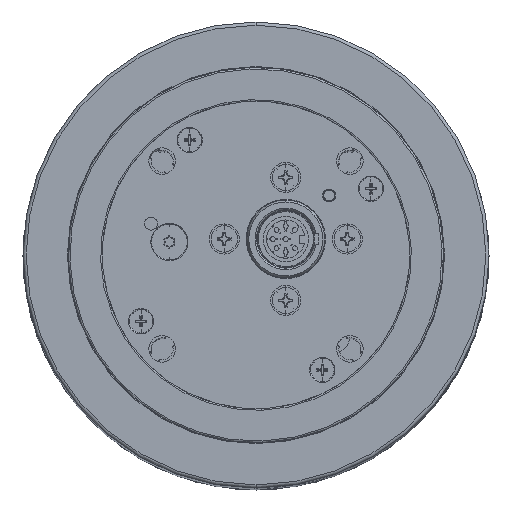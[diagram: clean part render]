
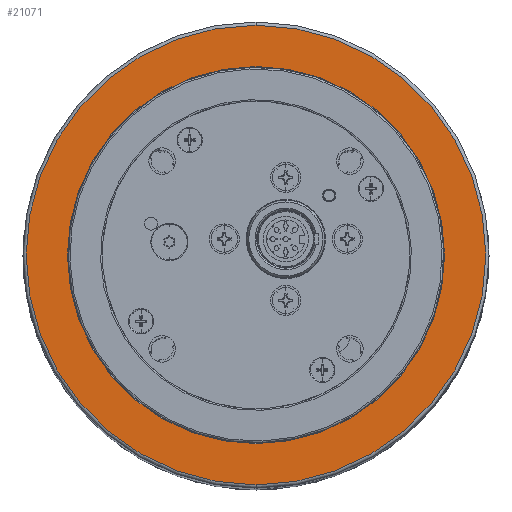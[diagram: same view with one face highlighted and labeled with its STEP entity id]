
A CAD part, top view. The second image highlights one B-rep face of the part: STEP entity #21071.
In plain terms, the highlighted planar face has unit normal (0, 0, 1).
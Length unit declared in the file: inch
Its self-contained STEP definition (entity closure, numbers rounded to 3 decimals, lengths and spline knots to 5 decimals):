
#1649 = DIRECTION ( 'NONE',  ( 0., 0., 1. ) ) ;
#3223 = FACE_BOUND ( 'NONE', #42050, .T. ) ;
#18310 = VERTEX_POINT ( 'NONE', #21272 ) ;
#19252 = DIRECTION ( 'NONE',  ( 0., 0., -1. ) ) ;
#21071 = ADVANCED_FACE ( 'NONE', ( #23732, #3223 ), #84152, .T. ) ;
#21272 = CARTESIAN_POINT ( 'NONE',  ( 12.79528, 2.06908, 6.96905 ) ) ;
#23732 = FACE_OUTER_BOUND ( 'NONE', #91307, .T. ) ;
#25387 = CARTESIAN_POINT ( 'NONE',  ( 12.79528, 1.56711, 6.96905 ) ) ;
#26675 = CARTESIAN_POINT ( 'NONE',  ( 12.79528, -3.0195, 6.96905 ) ) ;
#26678 = CARTESIAN_POINT ( 'NONE',  ( 12.79528, -0.72619, 6.96905 ) ) ;
#31082 = CARTESIAN_POINT ( 'NONE',  ( 12.79528, -0.72619, 6.96905 ) ) ;
#31847 = DIRECTION ( 'NONE',  ( 0., -1., 0. ) ) ;
#31871 = AXIS2_PLACEMENT_3D ( 'NONE', #70402, #1649, #63333 ) ;
#35147 = CARTESIAN_POINT ( 'NONE',  ( 12.79528, -0.72619, 6.96905 ) ) ;
#39285 = ORIENTED_EDGE ( 'NONE', *, *, #96642, .T. ) ;
#41916 = DIRECTION ( 'NONE',  ( 0., -1., 0. ) ) ;
#42050 = EDGE_LOOP ( 'NONE', ( #80194, #57540 ) ) ;
#42523 = EDGE_CURVE ( 'NONE', #94504, #89161, #65036, .T. ) ;
#44343 = CIRCLE ( 'NONE', #45751, 2.29331 ) ;
#45751 = AXIS2_PLACEMENT_3D ( 'NONE', #26678, #19252, #81655 ) ;
#53036 = DIRECTION ( 'NONE',  ( 0., 0., 1. ) ) ;
#57540 = ORIENTED_EDGE ( 'NONE', *, *, #91460, .T. ) ;
#60553 = CARTESIAN_POINT ( 'NONE',  ( 12.79528, -3.52147, 6.96905 ) ) ;
#63230 = AXIS2_PLACEMENT_3D ( 'NONE', #31082, #53036, #99210 ) ;
#63333 = DIRECTION ( 'NONE',  ( 0., -1., 0. ) ) ;
#64942 = DIRECTION ( 'NONE',  ( 0., 0., 1. ) ) ;
#65036 = CIRCLE ( 'NONE', #74103, 2.29331 ) ;
#66531 = EDGE_CURVE ( 'NONE', #87426, #18310, #71806, .T. ) ;
#70402 = CARTESIAN_POINT ( 'NONE',  ( 12.79528, -0.72619, 6.96905 ) ) ;
#71806 = CIRCLE ( 'NONE', #63230, 2.79528 ) ;
#73947 = DIRECTION ( 'NONE',  ( 0., 0., -1. ) ) ;
#74103 = AXIS2_PLACEMENT_3D ( 'NONE', #35147, #73947, #41916 ) ;
#79894 = CIRCLE ( 'NONE', #31871, 2.79528 ) ;
#80194 = ORIENTED_EDGE ( 'NONE', *, *, #42523, .T. ) ;
#81655 = DIRECTION ( 'NONE',  ( 0., -1., 0. ) ) ;
#84152 = PLANE ( 'NONE',  #90451 ) ;
#87426 = VERTEX_POINT ( 'NONE', #60553 ) ;
#89161 = VERTEX_POINT ( 'NONE', #25387 ) ;
#90451 = AXIS2_PLACEMENT_3D ( 'NONE', #91930, #64942, #31847 ) ;
#91109 = ORIENTED_EDGE ( 'NONE', *, *, #66531, .T. ) ;
#91307 = EDGE_LOOP ( 'NONE', ( #91109, #39285 ) ) ;
#91460 = EDGE_CURVE ( 'NONE', #89161, #94504, #44343, .T. ) ;
#91930 = CARTESIAN_POINT ( 'NONE',  ( 15.62992, -0.72619, 6.96905 ) ) ;
#94504 = VERTEX_POINT ( 'NONE', #26675 ) ;
#96642 = EDGE_CURVE ( 'NONE', #18310, #87426, #79894, .T. ) ;
#99210 = DIRECTION ( 'NONE',  ( 0., -1., 0. ) ) ;
